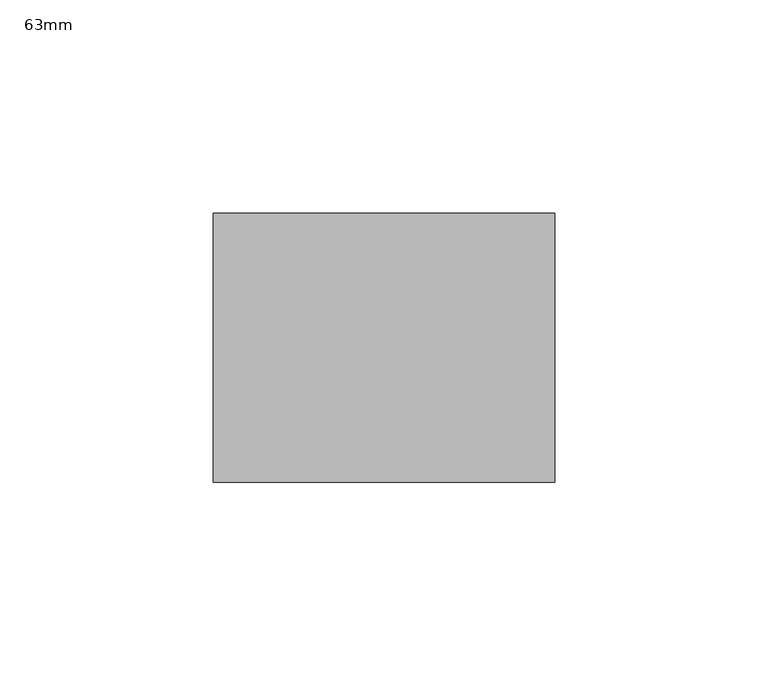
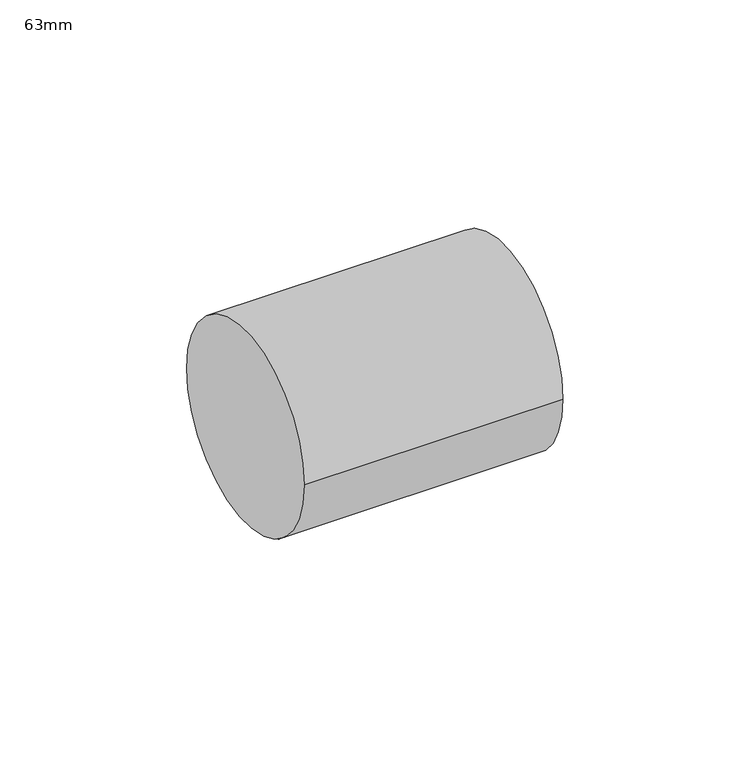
"""IFC4 building model written with IfcOpenShell, lengths in millimetres: pipe fitting geometry, PipeFitting_HTA_CPVC_PlainNipples : 63mm."""

from ifc_helpers import new_model, si_unit, point, frame, origin, origin_2d, place, context, project, spatial, circle_curve, trimmed, segment, composite_curve, outline, extrude, source, transform, mapped, element, save


def pipe_fitting_63mm_ebcf6b7b(model_context):
    return source(origin(), model_context, "Body", "SweptSolid", [
        extrude(outline(composite_curve([segment(trimmed(circle_curve(origin_2d(), 31.5), [point((-31.5, 0.0))], [point((31.5, 0.0))], False, "CARTESIAN"), True, "CONTINUOUS"), segment(trimmed(circle_curve(origin_2d(), 31.5), [point((31.5, 0.0))], [point((-31.5, 0.0))], False, "CARTESIAN"), True, "CONTINUOUS")], self_intersect=False)), frame((-40.0, 0.0, 0.0), z_axis=(1.0, 0.0, 0.0), x_axis=(0.0, 1.0, 0.0)), (0.0, 0.0, 1.0), 80.0),
    ])


if __name__ == "__main__":
    model = new_model("IFC4")
    model_context = context("Model", 3, world=origin())
    ifc_project = project(units=[si_unit("LENGTHUNIT", "METRE", prefix="MILLI")], contexts=[model_context])
    site = spatial("IfcSite", under=ifc_project)
    building = spatial("IfcBuilding", under=site)
    placement = place(None, origin())
    pipe_fitting_63mm_shape = pipe_fitting_63mm_ebcf6b7b(model_context)
    element("IfcPipeFitting", 1, ObjectType="PipeFitting_HTA_CPVC_PlainNipples : 63mm", at=placement, inside=building, context=model_context, shape_type="MappedRepresentation", body=[
        mapped(pipe_fitting_63mm_shape, transform((0.0, 0.0, 0.0), x_axis=(1.0, 0.0, 0.0), y_axis=(0.0, 1.0, 0.0), z_axis=(0.0, 0.0, 1.0))),
    ])
    save(model, "model.ifc")
